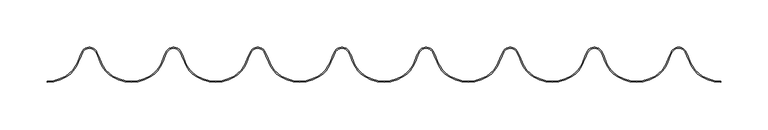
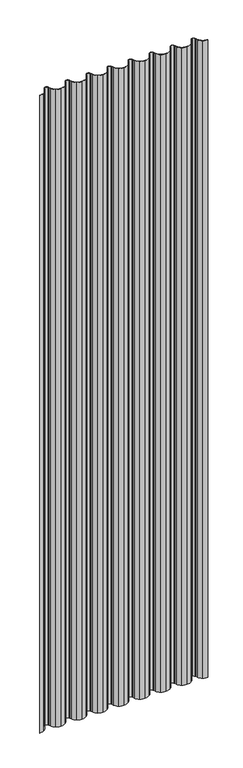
"""IFC4 building model written with IfcOpenShell, lengths in millimetres: plate geometry, Regolare Vertical 712 : Regolare Vertical 712."""

from ifc_helpers import new_model, si_unit, point, frame_2d, origin, origin_with_axes, place, context, project, spatial, polyline, circle_curve, trimmed, segment, composite_curve, outline, extrude, source, transform, mapped, element, save


def plate_44dc55b0(model_context):
    return source(origin(), model_context, "Body", "SweptSolid", [
        extrude(outline(composite_curve([segment(trimmed(circle_curve(frame_2d((356.2059563, 38.4503244)), 37.4503244), [point((336.6652062, 6.5021495))], [point((356.2059563, 1.0))], True, "CARTESIAN"), True, "CONTINUOUS"), segment(polyline([(356.2059563, 1.0), (356.2059563, 0.0)]), True, "CONTINUOUS"), segment(trimmed(circle_curve(frame_2d((356.2059563, 38.4503244)), 38.4503244), [point((356.2059563, 0.0))], [point((336.1434283, 5.6490681))], False, "CARTESIAN"), True, "CONTINUOUS"), segment(trimmed(circle_curve(frame_2d((352.6403111, 32.6206681)), 31.6166783), [point((336.1434283, 5.6490681))], [point((323.2848269, 20.878867))], False, "CARTESIAN"), True, "CONTINUOUS"), segment(polyline([(323.2848269, 20.878867), (320.4156051, 28.0423924), (318.7692514, 31.4771017)]), True, "CONTINUOUS"), segment(trimmed(circle_curve(frame_2d((311.6802118, 28.0791236)), 7.8613445), [point((318.7692514, 31.4771017))], [point((311.6802118, 35.9404682))], True, "CARTESIAN"), True, "CONTINUOUS"), segment(trimmed(circle_curve(frame_2d((311.6802118, 28.0791236)), 7.8613445), [point((311.6802118, 35.9404682))], [point((304.5911721, 31.4771017))], True, "CARTESIAN"), True, "CONTINUOUS"), segment(polyline([(304.5911721, 31.4771017), (302.9448184, 28.0423924), (300.0755967, 20.878867)]), True, "CONTINUOUS"), segment(trimmed(circle_curve(frame_2d((270.7201125, 32.6206681)), 31.6166783), [point((300.0755967, 20.878867))], [point((287.2169952, 5.6490681))], False, "CARTESIAN"), True, "CONTINUOUS"), segment(trimmed(circle_curve(frame_2d((267.1544672, 38.4503244)), 38.4503244), [point((287.2169952, 5.6490681))], [point((267.1544672, 0.0))], False, "CARTESIAN"), True, "CONTINUOUS"), segment(trimmed(circle_curve(frame_2d((267.1544672, 38.4503244)), 38.4503244), [point((267.1544672, 0.0))], [point((247.0919392, 5.6490681))], False, "CARTESIAN"), True, "CONTINUOUS"), segment(trimmed(circle_curve(frame_2d((263.588822, 32.6206681)), 31.6166783), [point((247.0919392, 5.6490681))], [point((234.2333378, 20.878867))], False, "CARTESIAN"), True, "CONTINUOUS"), segment(polyline([(234.2333378, 20.878867), (231.3641161, 28.0423924), (229.7177623, 31.4771017)]), True, "CONTINUOUS"), segment(trimmed(circle_curve(frame_2d((222.6287227, 28.0791236)), 7.8613445), [point((229.7177623, 31.4771017))], [point((215.5396831, 31.4771017))], True, "CARTESIAN"), True, "CONTINUOUS"), segment(polyline([(215.5396831, 31.4771017), (213.8933293, 28.0423924), (211.0241076, 20.878867)]), True, "CONTINUOUS"), segment(trimmed(circle_curve(frame_2d((181.6686234, 32.6206681)), 31.6166783), [point((211.0241076, 20.878867))], [point((198.1655062, 5.6490681))], False, "CARTESIAN"), True, "CONTINUOUS"), segment(trimmed(circle_curve(frame_2d((178.1029782, 38.4503244)), 38.4503244), [point((198.1655062, 5.6490681))], [point((178.1029782, 0.0))], False, "CARTESIAN"), True, "CONTINUOUS"), segment(trimmed(circle_curve(frame_2d((178.1029782, 38.4503244)), 38.4503244), [point((178.1029782, 0.0))], [point((158.0404502, 5.6490681))], False, "CARTESIAN"), True, "CONTINUOUS"), segment(trimmed(circle_curve(frame_2d((174.5373329, 32.6206681)), 31.6166783), [point((158.0404502, 5.6490681))], [point((145.1818487, 20.878867))], False, "CARTESIAN"), True, "CONTINUOUS"), segment(polyline([(145.1818487, 20.878867), (142.312627, 28.0423924), (140.6662733, 31.4771017)]), True, "CONTINUOUS"), segment(trimmed(circle_curve(frame_2d((133.5772336, 28.0791236)), 7.8613445), [point((140.6662733, 31.4771017))], [point((126.488194, 31.4771017))], True, "CARTESIAN"), True, "CONTINUOUS"), segment(polyline([(126.488194, 31.4771017), (124.8418403, 28.0423924), (121.9726185, 20.878867)]), True, "CONTINUOUS"), segment(trimmed(circle_curve(frame_2d((92.6171343, 32.6206681)), 31.6166783), [point((121.9726185, 20.878867))], [point((109.1140171, 5.6490681))], False, "CARTESIAN"), True, "CONTINUOUS"), segment(trimmed(circle_curve(frame_2d((89.0514891, 38.4503244)), 38.4503244), [point((109.1140171, 5.6490681))], [point((89.0514891, 0.0))], False, "CARTESIAN"), True, "CONTINUOUS"), segment(trimmed(circle_curve(frame_2d((89.0514891, 38.4503244)), 38.4503244), [point((89.0514891, 0.0))], [point((68.9889611, 5.6490681))], False, "CARTESIAN"), True, "CONTINUOUS"), segment(trimmed(circle_curve(frame_2d((85.4858438, 32.6206681)), 31.6166783), [point((68.9889611, 5.6490681))], [point((56.1303596, 20.878867))], False, "CARTESIAN"), True, "CONTINUOUS"), segment(polyline([(56.1303596, 20.878867), (53.2611379, 28.0423924), (51.6147842, 31.4771017)]), True, "CONTINUOUS"), segment(trimmed(circle_curve(frame_2d((44.5257445, 28.0791236)), 7.8613445), [point((51.6147842, 31.4771017))], [point((37.4367049, 31.4771017))], True, "CARTESIAN"), True, "CONTINUOUS"), segment(polyline([(37.4367049, 31.4771017), (35.7903512, 28.0423924), (32.9211295, 20.878867)]), True, "CONTINUOUS"), segment(trimmed(circle_curve(frame_2d((3.5656452, 32.6206681)), 31.6166783), [point((32.9211295, 20.878867))], [point((20.062528, 5.6490681))], False, "CARTESIAN"), True, "CONTINUOUS"), segment(trimmed(circle_curve(frame_2d((0.0, 38.4503244)), 38.4503244), [point((20.062528, 5.6490681))], [point((0.0, 0.0))], False, "CARTESIAN"), True, "CONTINUOUS"), segment(trimmed(circle_curve(frame_2d((0.0, 38.4503244)), 38.4503244), [point((0.0, 0.0))], [point((-20.062528, 5.6490681))], False, "CARTESIAN"), True, "CONTINUOUS"), segment(trimmed(circle_curve(frame_2d((-3.5656452, 32.6206681)), 31.6166783), [point((-20.062528, 5.6490681))], [point((-32.9211295, 20.878867))], False, "CARTESIAN"), True, "CONTINUOUS"), segment(polyline([(-32.9211295, 20.878867), (-35.7903512, 28.0423924), (-37.4367049, 31.4771017)]), True, "CONTINUOUS"), segment(trimmed(circle_curve(frame_2d((-44.5257445, 28.0791236)), 7.8613445), [point((-37.4367049, 31.4771017))], [point((-51.6147842, 31.4771017))], True, "CARTESIAN"), True, "CONTINUOUS"), segment(polyline([(-51.6147842, 31.4771017), (-53.2611379, 28.0423924), (-56.1303596, 20.878867)]), True, "CONTINUOUS"), segment(trimmed(circle_curve(frame_2d((-85.4858438, 32.6206681)), 31.6166783), [point((-56.1303596, 20.878867))], [point((-68.9889611, 5.6490681))], False, "CARTESIAN"), True, "CONTINUOUS"), segment(trimmed(circle_curve(frame_2d((-89.0514891, 38.4503244)), 38.4503244), [point((-68.9889611, 5.6490681))], [point((-89.0514891, 0.0))], False, "CARTESIAN"), True, "CONTINUOUS"), segment(trimmed(circle_curve(frame_2d((-89.0514891, 38.4503244)), 38.4503244), [point((-89.0514891, 0.0))], [point((-109.1140171, 5.6490681))], False, "CARTESIAN"), True, "CONTINUOUS"), segment(trimmed(circle_curve(frame_2d((-92.6171343, 32.6206681)), 31.6166783), [point((-109.1140171, 5.6490681))], [point((-121.9726185, 20.878867))], False, "CARTESIAN"), True, "CONTINUOUS"), segment(polyline([(-121.9726185, 20.878867), (-124.8418403, 28.0423924), (-126.488194, 31.4771017)]), True, "CONTINUOUS"), segment(trimmed(circle_curve(frame_2d((-133.5772336, 28.0791236)), 7.8613445), [point((-126.488194, 31.4771017))], [point((-140.6662733, 31.4771017))], True, "CARTESIAN"), True, "CONTINUOUS"), segment(polyline([(-140.6662733, 31.4771017), (-142.312627, 28.0423924), (-145.1818487, 20.878867)]), True, "CONTINUOUS"), segment(trimmed(circle_curve(frame_2d((-174.5373329, 32.6206681)), 31.6166783), [point((-145.1818487, 20.878867))], [point((-158.0404502, 5.6490681))], False, "CARTESIAN"), True, "CONTINUOUS"), segment(trimmed(circle_curve(frame_2d((-178.1029782, 38.4503244)), 38.4503244), [point((-158.0404502, 5.6490681))], [point((-178.1029782, 0.0))], False, "CARTESIAN"), True, "CONTINUOUS"), segment(trimmed(circle_curve(frame_2d((-178.1029782, 38.4503244)), 38.4503244), [point((-178.1029782, 0.0))], [point((-198.1655062, 5.6490681))], False, "CARTESIAN"), True, "CONTINUOUS"), segment(trimmed(circle_curve(frame_2d((-181.6686234, 32.6206681)), 31.6166783), [point((-198.1655062, 5.6490681))], [point((-211.0241076, 20.878867))], False, "CARTESIAN"), True, "CONTINUOUS"), segment(polyline([(-211.0241076, 20.878867), (-213.8933293, 28.0423924), (-215.5396831, 31.4771017)]), True, "CONTINUOUS"), segment(trimmed(circle_curve(frame_2d((-222.6287227, 28.0791236)), 7.8613445), [point((-215.5396831, 31.4771017))], [point((-229.7177623, 31.4771017))], True, "CARTESIAN"), True, "CONTINUOUS"), segment(polyline([(-229.7177623, 31.4771017), (-231.3641161, 28.0423924), (-234.2333378, 20.878867)]), True, "CONTINUOUS"), segment(trimmed(circle_curve(frame_2d((-263.588822, 32.6206681)), 31.6166783), [point((-234.2333378, 20.878867))], [point((-247.0919392, 5.6490681))], False, "CARTESIAN"), True, "CONTINUOUS"), segment(trimmed(circle_curve(frame_2d((-267.1544672, 38.4503244)), 38.4503244), [point((-247.0919392, 5.6490681))], [point((-267.1544672, 0.0))], False, "CARTESIAN"), True, "CONTINUOUS"), segment(trimmed(circle_curve(frame_2d((-267.1544672, 38.4503244)), 38.4503244), [point((-267.1544672, 0.0))], [point((-287.2169952, 5.6490681))], False, "CARTESIAN"), True, "CONTINUOUS"), segment(trimmed(circle_curve(frame_2d((-270.7201125, 32.6206681)), 31.6166783), [point((-287.2169952, 5.6490681))], [point((-300.0755967, 20.878867))], False, "CARTESIAN"), True, "CONTINUOUS"), segment(polyline([(-300.0755967, 20.878867), (-302.9448184, 28.0423924), (-304.5911721, 31.4771017)]), True, "CONTINUOUS"), segment(trimmed(circle_curve(frame_2d((-311.6802118, 28.0791236)), 7.8613445), [point((-304.5911721, 31.4771017))], [point((-318.7692514, 31.4771017))], True, "CARTESIAN"), True, "CONTINUOUS"), segment(polyline([(-318.7692514, 31.4771017), (-320.4156051, 28.0423924), (-323.2848269, 20.878867)]), True, "CONTINUOUS"), segment(trimmed(circle_curve(frame_2d((-352.6403111, 32.6206681)), 31.6166783), [point((-323.2848269, 20.878867))], [point((-336.1434283, 5.6490681))], False, "CARTESIAN"), True, "CONTINUOUS"), segment(trimmed(circle_curve(frame_2d((-356.2059563, 38.4503244)), 38.4503244), [point((-336.1434283, 5.6490681))], [point((-356.2059563, 0.0))], False, "CARTESIAN"), True, "CONTINUOUS"), segment(polyline([(-356.2059563, 0.0), (-356.2059563, 1.0)]), True, "CONTINUOUS"), segment(trimmed(circle_curve(frame_2d((-356.2059563, 38.4503244)), 37.4503244), [point((-356.2059563, 1.0))], [point((-336.6652062, 6.5021495))], True, "CARTESIAN"), True, "CONTINUOUS"), segment(trimmed(circle_curve(frame_2d((-352.6403111, 32.6206681)), 30.6166783), [point((-336.6652062, 6.5021495))], [point((-324.2132212, 21.2504634))], True, "CARTESIAN"), True, "CONTINUOUS"), segment(polyline([(-324.2132212, 21.2504634), (-321.3316353, 28.4448583), (-319.6710106, 31.9093405)]), True, "CONTINUOUS"), segment(trimmed(circle_curve(frame_2d((-311.6802118, 28.0791236)), 8.8613445), [point((-319.6710106, 31.9093405))], [point((-303.689413, 31.9093405))], False, "CARTESIAN"), True, "CONTINUOUS"), segment(polyline([(-303.689413, 31.9093405), (-302.0287882, 28.4448583), (-299.1472023, 21.2504634)]), True, "CONTINUOUS"), segment(trimmed(circle_curve(frame_2d((-270.7201125, 32.6206681)), 30.6166783), [point((-299.1472023, 21.2504634))], [point((-286.6952174, 6.5021495))], True, "CARTESIAN"), True, "CONTINUOUS"), segment(trimmed(circle_curve(frame_2d((-267.1544672, 38.4503244)), 37.4503244), [point((-286.6952174, 6.5021495))], [point((-267.1544672, 1.0))], True, "CARTESIAN"), True, "CONTINUOUS"), segment(trimmed(circle_curve(frame_2d((-267.1544672, 38.4503244)), 37.4503244), [point((-267.1544672, 1.0))], [point((-247.6137171, 6.5021495))], True, "CARTESIAN"), True, "CONTINUOUS"), segment(trimmed(circle_curve(frame_2d((-263.588822, 32.6206681)), 30.6166783), [point((-247.6137171, 6.5021495))], [point((-235.1617322, 21.2504634))], True, "CARTESIAN"), True, "CONTINUOUS"), segment(polyline([(-235.1617322, 21.2504634), (-232.2801463, 28.4448583), (-230.6195215, 31.9093405)]), True, "CONTINUOUS"), segment(trimmed(circle_curve(frame_2d((-222.6287227, 28.0791236)), 8.8613445), [point((-230.6195215, 31.9093405))], [point((-214.6379239, 31.9093405))], False, "CARTESIAN"), True, "CONTINUOUS"), segment(polyline([(-214.6379239, 31.9093405), (-212.9772992, 28.4448583), (-210.0957133, 21.2504634)]), True, "CONTINUOUS"), segment(trimmed(circle_curve(frame_2d((-181.6686234, 32.6206681)), 30.6166783), [point((-210.0957133, 21.2504634))], [point((-197.6437283, 6.5021495))], True, "CARTESIAN"), True, "CONTINUOUS"), segment(trimmed(circle_curve(frame_2d((-178.1029782, 38.4503244)), 37.4503244), [point((-197.6437283, 6.5021495))], [point((-178.1029782, 1.0))], True, "CARTESIAN"), True, "CONTINUOUS"), segment(trimmed(circle_curve(frame_2d((-178.1029782, 38.4503244)), 37.4503244), [point((-178.1029782, 1.0))], [point((-158.562228, 6.5021495))], True, "CARTESIAN"), True, "CONTINUOUS"), segment(trimmed(circle_curve(frame_2d((-174.5373329, 32.6206681)), 30.6166783), [point((-158.562228, 6.5021495))], [point((-146.1102431, 21.2504634))], True, "CARTESIAN"), True, "CONTINUOUS"), segment(polyline([(-146.1102431, 21.2504634), (-143.2286572, 28.4448583), (-141.5680324, 31.9093405)]), True, "CONTINUOUS"), segment(trimmed(circle_curve(frame_2d((-133.5772336, 28.0791236)), 8.8613445), [point((-141.5680324, 31.9093405))], [point((-125.5864348, 31.9093405))], False, "CARTESIAN"), True, "CONTINUOUS"), segment(polyline([(-125.5864348, 31.9093405), (-123.9258101, 28.4448583), (-121.0442242, 21.2504634)]), True, "CONTINUOUS"), segment(trimmed(circle_curve(frame_2d((-92.6171343, 32.6206681)), 30.6166783), [point((-121.0442242, 21.2504634))], [point((-108.5922392, 6.5021495))], True, "CARTESIAN"), True, "CONTINUOUS"), segment(trimmed(circle_curve(frame_2d((-89.0514891, 38.4503244)), 37.4503244), [point((-108.5922392, 6.5021495))], [point((-89.0514891, 1.0))], True, "CARTESIAN"), True, "CONTINUOUS"), segment(trimmed(circle_curve(frame_2d((-89.0514891, 38.4503244)), 37.4503244), [point((-89.0514891, 1.0))], [point((-69.5107389, 6.5021495))], True, "CARTESIAN"), True, "CONTINUOUS"), segment(trimmed(circle_curve(frame_2d((-85.4858438, 32.6206681)), 30.6166783), [point((-69.5107389, 6.5021495))], [point((-57.058754, 21.2504634))], True, "CARTESIAN"), True, "CONTINUOUS"), segment(polyline([(-57.058754, 21.2504634), (-54.1771681, 28.4448583), (-52.5165434, 31.9093405)]), True, "CONTINUOUS"), segment(trimmed(circle_curve(frame_2d((-44.5257445, 28.0791236)), 8.8613445), [point((-52.5165434, 31.9093405))], [point((-36.5349457, 31.9093405))], False, "CARTESIAN"), True, "CONTINUOUS"), segment(polyline([(-36.5349457, 31.9093405), (-34.874321, 28.4448583), (-31.9927351, 21.2504634)]), True, "CONTINUOUS"), segment(trimmed(circle_curve(frame_2d((-3.5656452, 32.6206681)), 30.6166783), [point((-31.9927351, 21.2504634))], [point((-19.5407501, 6.5021495))], True, "CARTESIAN"), True, "CONTINUOUS"), segment(trimmed(circle_curve(frame_2d((0.0, 38.4503244)), 37.4503244), [point((-19.5407501, 6.5021495))], [point((0.0, 1.0))], True, "CARTESIAN"), True, "CONTINUOUS"), segment(trimmed(circle_curve(frame_2d((0.0, 38.4503244)), 37.4503244), [point((0.0, 1.0))], [point((19.5407501, 6.5021495))], True, "CARTESIAN"), True, "CONTINUOUS"), segment(trimmed(circle_curve(frame_2d((3.5656452, 32.6206681)), 30.6166783), [point((19.5407501, 6.5021495))], [point((31.9927351, 21.2504634))], True, "CARTESIAN"), True, "CONTINUOUS"), segment(polyline([(31.9927351, 21.2504634), (34.874321, 28.4448583), (36.5349457, 31.9093405)]), True, "CONTINUOUS"), segment(trimmed(circle_curve(frame_2d((44.5257445, 28.0791236)), 8.8613445), [point((36.5349457, 31.9093405))], [point((52.5165434, 31.9093405))], False, "CARTESIAN"), True, "CONTINUOUS"), segment(polyline([(52.5165434, 31.9093405), (54.1771681, 28.4448583), (57.058754, 21.2504634)]), True, "CONTINUOUS"), segment(trimmed(circle_curve(frame_2d((85.4858438, 32.6206681)), 30.6166783), [point((57.058754, 21.2504634))], [point((69.5107389, 6.5021495))], True, "CARTESIAN"), True, "CONTINUOUS"), segment(trimmed(circle_curve(frame_2d((89.0514891, 38.4503244)), 37.4503244), [point((69.5107389, 6.5021495))], [point((89.0514891, 1.0))], True, "CARTESIAN"), True, "CONTINUOUS"), segment(trimmed(circle_curve(frame_2d((89.0514891, 38.4503244)), 37.4503244), [point((89.0514891, 1.0))], [point((108.5922392, 6.5021495))], True, "CARTESIAN"), True, "CONTINUOUS"), segment(trimmed(circle_curve(frame_2d((92.6171343, 32.6206681)), 30.6166783), [point((108.5922392, 6.5021495))], [point((121.0442242, 21.2504634))], True, "CARTESIAN"), True, "CONTINUOUS"), segment(polyline([(121.0442242, 21.2504634), (123.9258101, 28.4448583), (125.5864348, 31.9093405)]), True, "CONTINUOUS"), segment(trimmed(circle_curve(frame_2d((133.5772336, 28.0791236)), 8.8613445), [point((125.5864348, 31.9093405))], [point((141.5680324, 31.9093405))], False, "CARTESIAN"), True, "CONTINUOUS"), segment(polyline([(141.5680324, 31.9093405), (143.2286572, 28.4448583), (146.1102431, 21.2504634)]), True, "CONTINUOUS"), segment(trimmed(circle_curve(frame_2d((174.5373329, 32.6206681)), 30.6166783), [point((146.1102431, 21.2504634))], [point((158.562228, 6.5021495))], True, "CARTESIAN"), True, "CONTINUOUS"), segment(trimmed(circle_curve(frame_2d((178.1029782, 38.4503244)), 37.4503244), [point((158.562228, 6.5021495))], [point((178.1029782, 1.0))], True, "CARTESIAN"), True, "CONTINUOUS"), segment(trimmed(circle_curve(frame_2d((178.1029782, 38.4503244)), 37.4503244), [point((178.1029782, 1.0))], [point((197.6437283, 6.5021495))], True, "CARTESIAN"), True, "CONTINUOUS"), segment(trimmed(circle_curve(frame_2d((181.6686234, 32.6206681)), 30.6166783), [point((197.6437283, 6.5021495))], [point((210.0957133, 21.2504634))], True, "CARTESIAN"), True, "CONTINUOUS"), segment(polyline([(210.0957133, 21.2504634), (212.9772992, 28.4448583), (214.6379239, 31.9093405)]), True, "CONTINUOUS"), segment(trimmed(circle_curve(frame_2d((222.6287227, 28.0791236)), 8.8613445), [point((214.6379239, 31.9093405))], [point((230.6195215, 31.9093405))], False, "CARTESIAN"), True, "CONTINUOUS"), segment(polyline([(230.6195215, 31.9093405), (232.2801463, 28.4448583), (235.1617322, 21.2504634)]), True, "CONTINUOUS"), segment(trimmed(circle_curve(frame_2d((263.588822, 32.6206681)), 30.6166783), [point((235.1617322, 21.2504634))], [point((247.6137171, 6.5021495))], True, "CARTESIAN"), True, "CONTINUOUS"), segment(trimmed(circle_curve(frame_2d((267.1544672, 38.4503244)), 37.4503244), [point((247.6137171, 6.5021495))], [point((267.1544672, 1.0))], True, "CARTESIAN"), True, "CONTINUOUS"), segment(trimmed(circle_curve(frame_2d((267.1544672, 38.4503244)), 37.4503244), [point((267.1544672, 1.0))], [point((286.6952174, 6.5021495))], True, "CARTESIAN"), True, "CONTINUOUS"), segment(trimmed(circle_curve(frame_2d((270.7201125, 32.6206681)), 30.6166783), [point((286.6952174, 6.5021495))], [point((299.1472023, 21.2504634))], True, "CARTESIAN"), True, "CONTINUOUS"), segment(polyline([(299.1472023, 21.2504634), (302.0287882, 28.4448583), (303.689413, 31.9093405)]), True, "CONTINUOUS"), segment(trimmed(circle_curve(frame_2d((311.6802118, 28.0791236)), 8.8613445), [point((303.689413, 31.9093405))], [point((311.6802118, 36.9404682))], False, "CARTESIAN"), True, "CONTINUOUS"), segment(trimmed(circle_curve(frame_2d((311.6802118, 28.0791236)), 8.8613445), [point((311.6802118, 36.9404682))], [point((319.6710106, 31.9093405))], False, "CARTESIAN"), True, "CONTINUOUS"), segment(polyline([(319.6710106, 31.9093405), (321.3316353, 28.4448583), (324.2132212, 21.2504634)]), True, "CONTINUOUS"), segment(trimmed(circle_curve(frame_2d((352.6403111, 32.6206681)), 30.6166783), [point((324.2132212, 21.2504634))], [point((336.6652062, 6.5021495))], True, "CARTESIAN"), True, "CONTINUOUS")], self_intersect=False)), origin_with_axes(), (0.0, 0.0, 1.0), 2859.2009216),
    ])


if __name__ == "__main__":
    model = new_model("IFC4")
    model_context = context("Model", 3, world=origin())
    ifc_project = project(units=[si_unit("LENGTHUNIT", "METRE", prefix="MILLI")], contexts=[model_context])
    site = spatial("IfcSite", under=ifc_project)
    building = spatial("IfcBuilding", under=site)
    placement = place(None, origin())
    plate_shape = plate_44dc55b0(model_context)
    element("IfcPlate", 1, ObjectType="Regolare Vertical 712 : Regolare Vertical 712", at=placement, inside=building, context=model_context, shape_type="MappedRepresentation", body=[
        mapped(plate_shape, transform((0.0, 0.0, 0.0), x_axis=(1.0, 0.0, 0.0), y_axis=(0.0, 1.0, 0.0), z_axis=(0.0, 0.0, 1.0))),
    ])
    save(model, "model.ifc")
